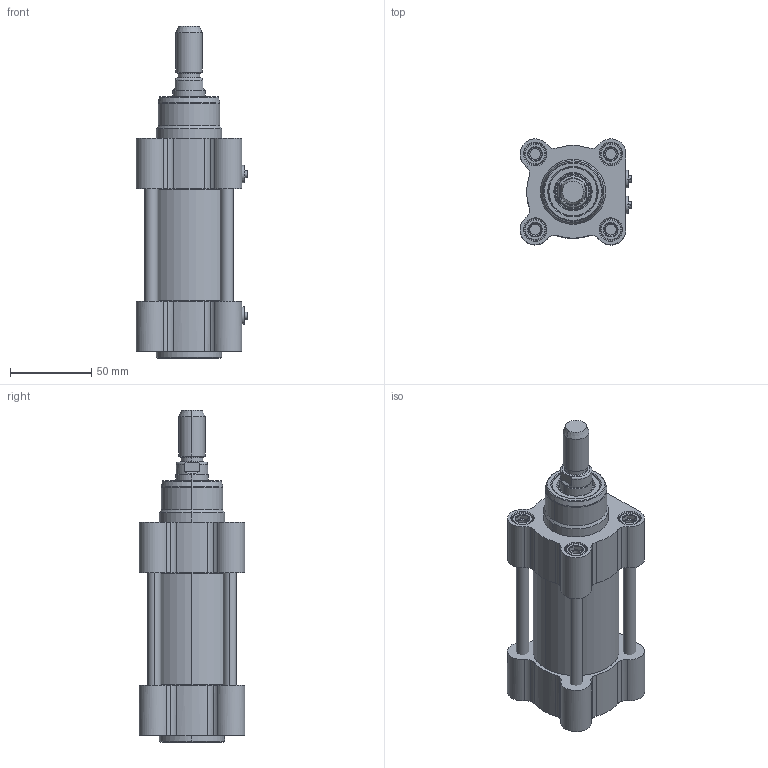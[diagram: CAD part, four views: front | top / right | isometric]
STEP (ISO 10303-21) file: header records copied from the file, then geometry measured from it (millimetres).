
FILE_DESCRIPTION (( 'STEP AP203' ), '1' );
FILE_NAME ('CTMI50-25.STEP', '2020-03-26T19:14:55', ( '' ), ( '' ), 'SwSTEP 2.0', 'SolidWorks 2019', '' );
FILE_SCHEMA (( 'CONFIG_CONTROL_DESIGN' ));
Length unit declared in the file: millimetre
Products named in the file (1): CTMI50-25
Bounding box: 68.7 x 65 x 204 mm (x, y, z)
Surface area: 104813.6 mm2 (no closed solid volume)
Topology: 0 solids, 26 shells, 733 faces, 1698 edges, 1052 vertices
Faces by surface type: cone 229, cylinder 204, plane 196, torus 88, bspline 16
Entity records: 26997 total; most frequent: CARTESIAN_POINT 11533, ORIENTED_EDGE 3340, DIRECTION 2906, EDGE_CURVE 1698, AXIS2_PLACEMENT_3D 1202, VERTEX_POINT 1052, EDGE_LOOP 806, FACE_OUTER_BOUND 733
